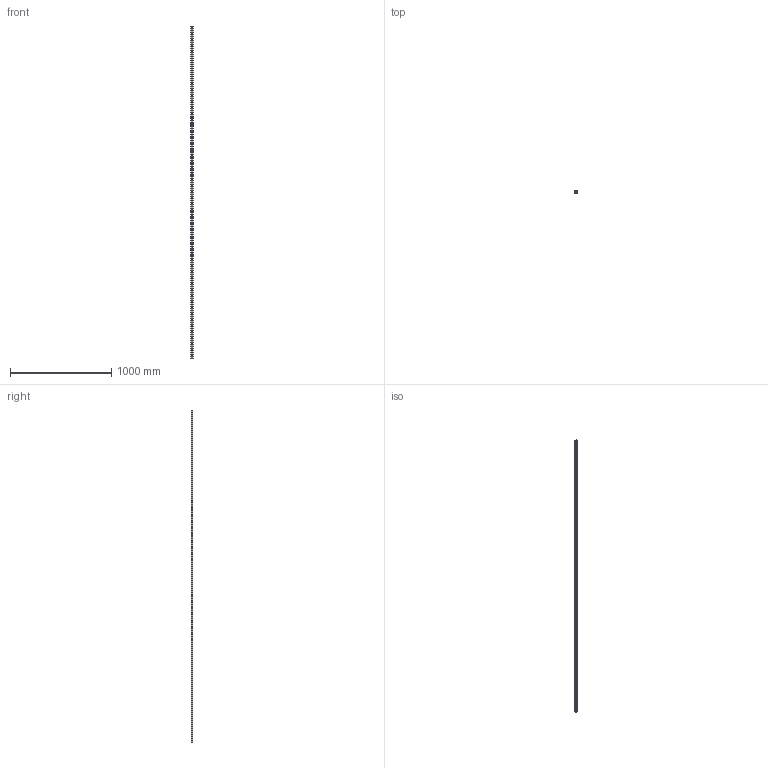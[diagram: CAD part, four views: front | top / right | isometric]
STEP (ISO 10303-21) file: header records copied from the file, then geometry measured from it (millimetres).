
FILE_DESCRIPTION (( 'STEP AP203' ), '1' );
FILE_NAME ('L1016.BL25-3280.step', '2019-06-12T12:14:36', ( '' ), ( '' ), 'SwSTEP 2.0', 'SolidWorks 2017', '' );
FILE_SCHEMA (( 'CONFIG_CONTROL_DESIGN' ));
Length unit declared in the file: millimetre
Products named in the file (1): L1016.BL25-3280
Bounding box: 23 x 19.2 x 3280 mm (x, y, z)
Volume: 1208767.5 mm3; surface area: 310241.7 mm2
Topology: 1 solids, 1 shells, 301 faces, 732 edges, 488 vertices
Faces by surface type: cylinder 224, plane 77
Entity records: 9371 total; most frequent: DIRECTION 1784, CARTESIAN_POINT 1522, ORIENTED_EDGE 1464, AXIS2_PLACEMENT_3D 750, EDGE_CURVE 732, VERTEX_POINT 488, EDGE_LOOP 466, CIRCLE 448
